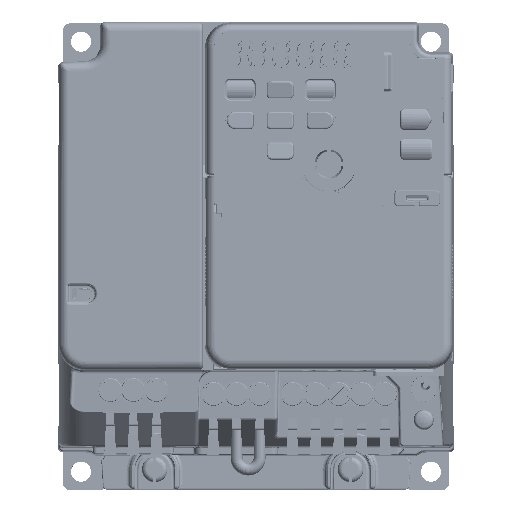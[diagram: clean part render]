
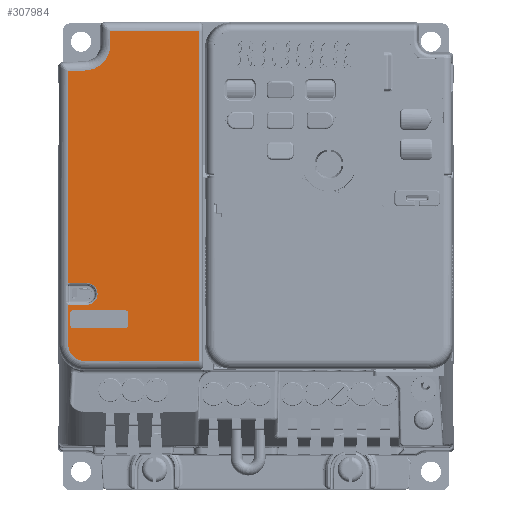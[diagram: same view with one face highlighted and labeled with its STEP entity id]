
A CAD part, top view. The second image highlights one B-rep face of the part: STEP entity #307984.
In plain terms, the highlighted planar face has unit normal (0, 0, 1).
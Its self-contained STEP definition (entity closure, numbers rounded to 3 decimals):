
#221983=DIRECTION('',(0.,-1.,0.));
#221984=VECTOR('',#221983,3.73);
#221985=CARTESIAN_POINT('',(-40.,125.5,
115.8));
#221986=LINE('',#221985,#221984);
#221991=CARTESIAN_POINT('',(-40.,125.5,
115.8));
#222026=CARTESIAN_POINT('',(-15.622,125.5,115.8));
#222028=DIRECTION('',(-1.,0.,0.));
#222029=VECTOR('',#222028,24.378);
#222030=CARTESIAN_POINT('',(-15.622,125.5,115.8));
#222031=LINE('',#222030,#222029);
#240392=CARTESIAN_POINT('',(-15.622,35.1,
115.8));
#240405=DIRECTION('',(1.,0.,0.));
#240406=VECTOR('',#240405,31.378);
#240407=CARTESIAN_POINT('',(-47.,35.1,115.8));
#240408=LINE('',#240407,#240406);
#240424=CARTESIAN_POINT('',(-51.044,56.544,
115.8));
#240425=CARTESIAN_POINT('',(-51.097,56.544,
115.8));
#240426=CARTESIAN_POINT('',(-51.201,56.535,
115.8));
#240427=CARTESIAN_POINT('',(-51.356,56.498,
115.8));
#240428=CARTESIAN_POINT('',(-51.453,56.458,
115.8));
#240429=CARTESIAN_POINT('',(-51.5,56.434,115.8));
#240431=DIRECTION('',(0.999,0.052,0.));
#240432=VECTOR('',#240431,4.873);
#240433=CARTESIAN_POINT('',(-51.5,114.525,115.8));
#240434=LINE('',#240433,#240432);
#240435=CARTESIAN_POINT('',(-47.,121.77,115.8));
#240436=DIRECTION('',(0.,0.,1.));
#240437=DIRECTION('',(0.052,-0.999,0.));
#240438=AXIS2_PLACEMENT_3D('',#240435,#240436,#240437);
#240440=CARTESIAN_POINT('',(-47.,39.6,115.8));
#240441=DIRECTION('',(0.,0.,-1.));
#240442=DIRECTION('',(0.,-1.,0.));
#240443=AXIS2_PLACEMENT_3D('',#240440,#240441,#240442);
#240445=CARTESIAN_POINT('',(-51.5,50.566,115.8));
#240446=CARTESIAN_POINT('',(-51.453,50.542,
115.8));
#240447=CARTESIAN_POINT('',(-51.356,50.502,
115.8));
#240448=CARTESIAN_POINT('',(-51.201,50.465,
115.8));
#240449=CARTESIAN_POINT('',(-51.097,50.456,
115.8));
#240450=CARTESIAN_POINT('',(-51.044,50.456,
115.8));
#240452=CARTESIAN_POINT('',(-46.5,53.5,115.8));
#240453=DIRECTION('',(0.,0.,1.));
#240454=DIRECTION('',(0.,-1.,0.));
#240455=AXIS2_PLACEMENT_3D('',#240452,#240453,#240454);
#240457=CARTESIAN_POINT('',(-50.,45.,115.8));
#240458=DIRECTION('',(0.,0.,1.));
#240459=DIRECTION('',(-1.,0.,0.));
#240460=AXIS2_PLACEMENT_3D('',#240457,#240458,#240459);
#240462=CARTESIAN_POINT('',(-36.,45.,115.8));
#240463=DIRECTION('',(0.,0.,1.));
#240464=DIRECTION('',(0.,-1.,0.));
#240465=AXIS2_PLACEMENT_3D('',#240462,#240463,#240464);
#240467=CARTESIAN_POINT('',(-36.,48.,115.8));
#240468=DIRECTION('',(0.,0.,1.));
#240469=DIRECTION('',(1.,0.,0.));
#240470=AXIS2_PLACEMENT_3D('',#240467,#240468,#240469);
#240472=CARTESIAN_POINT('',(-50.,48.,115.8));
#240473=DIRECTION('',(0.,0.,1.));
#240474=DIRECTION('',(0.,1.,0.));
#240475=AXIS2_PLACEMENT_3D('',#240472,#240473,#240474);
#240477=DIRECTION('',(1.,0.,0.));
#240478=VECTOR('',#240477,4.544);
#240479=CARTESIAN_POINT('',(-51.044,56.544,
115.8));
#240480=LINE('',#240479,#240478);
#240522=DIRECTION('',(-1.,0.,0.));
#240523=VECTOR('',#240522,4.544);
#240524=CARTESIAN_POINT('',(-46.5,50.456,115.8));
#240525=LINE('',#240524,#240523);
#240556=DIRECTION('',(0.,-1.,0.));
#240557=VECTOR('',#240556,10.966);
#240558=CARTESIAN_POINT('',(-51.5,50.566,115.8));
#240559=LINE('',#240558,#240557);
#240574=DIRECTION('',(0.,-1.,0.));
#240575=VECTOR('',#240574,58.091);
#240576=CARTESIAN_POINT('',(-51.5,114.525,115.8));
#240577=LINE('',#240576,#240575);
#240855=DIRECTION('',(0.,1.,0.));
#240856=VECTOR('',#240855,90.4);
#240857=CARTESIAN_POINT('',(-15.622,35.1,
115.8));
#240858=LINE('',#240857,#240856);
#240863=DIRECTION('',(0.,1.,0.));
#240864=VECTOR('',#240863,3.);
#240865=CARTESIAN_POINT('',(-51.,45.,115.8));
#240866=LINE('',#240865,#240864);
#241219=DIRECTION('',(1.,0.,0.));
#241220=VECTOR('',#241219,14.);
#241221=CARTESIAN_POINT('',(-50.,49.,115.8));
#241222=LINE('',#241221,#241220);
#241231=DIRECTION('',(0.,-1.,0.));
#241232=VECTOR('',#241231,3.);
#241233=CARTESIAN_POINT('',(-35.,48.,115.8));
#241234=LINE('',#241233,#241232);
#241243=DIRECTION('',(-1.,0.,0.));
#241244=VECTOR('',#241243,14.);
#241245=CARTESIAN_POINT('',(-36.,44.,115.8));
#241246=LINE('',#241245,#241244);
#269780=VERTEX_POINT('',#221991);
#269781=CARTESIAN_POINT('',(-40.,121.77,115.8));
#269782=VERTEX_POINT('',#269781);
#269783=VERTEX_POINT('',#222026);
#274788=VERTEX_POINT('',#240392);
#274789=CARTESIAN_POINT('',(-47.,35.1,115.8));
#274790=VERTEX_POINT('',#274789);
#274791=CARTESIAN_POINT('',(-51.5,39.6,115.8));
#274792=VERTEX_POINT('',#274791);
#274793=CARTESIAN_POINT('',(-51.044,56.544,
115.8));
#274794=CARTESIAN_POINT('',(-46.5,56.544,115.8));
#274795=VERTEX_POINT('',#274793);
#274796=VERTEX_POINT('',#274794);
#274797=VERTEX_POINT('',#240429);
#274798=CARTESIAN_POINT('',(-51.5,114.525,115.8));
#274799=VERTEX_POINT('',#274798);
#274800=CARTESIAN_POINT('',(-46.634,114.78,115.8));
#274801=VERTEX_POINT('',#274800);
#274802=CARTESIAN_POINT('',(-51.5,50.566,115.8));
#274803=VERTEX_POINT('',#274802);
#274804=VERTEX_POINT('',#240450);
#274805=CARTESIAN_POINT('',(-46.5,50.456,115.8));
#274806=VERTEX_POINT('',#274805);
#274807=CARTESIAN_POINT('',(-51.,45.,115.8));
#274808=CARTESIAN_POINT('',(-51.,48.,115.8));
#274809=VERTEX_POINT('',#274807);
#274810=VERTEX_POINT('',#274808);
#274811=CARTESIAN_POINT('',(-50.,44.,115.8));
#274812=VERTEX_POINT('',#274811);
#274813=CARTESIAN_POINT('',(-36.,44.,115.8));
#274814=VERTEX_POINT('',#274813);
#274815=CARTESIAN_POINT('',(-35.,45.,115.8));
#274816=VERTEX_POINT('',#274815);
#274817=CARTESIAN_POINT('',(-35.,48.,115.8));
#274818=VERTEX_POINT('',#274817);
#274819=CARTESIAN_POINT('',(-36.,49.,115.8));
#274820=VERTEX_POINT('',#274819);
#274821=CARTESIAN_POINT('',(-50.,49.,115.8));
#274822=VERTEX_POINT('',#274821);
#307935=CARTESIAN_POINT('',(0.,0.,115.8));
#307936=DIRECTION('',(0.,0.,1.));
#307937=DIRECTION('',(1.,0.,0.));
#307938=AXIS2_PLACEMENT_3D('',#307935,#307936,#307937);
#307939=PLANE('',#307938);
#307941=ORIENTED_EDGE('',*,*,#307940,.F.);
#307943=ORIENTED_EDGE('',*,*,#307942,.T.);
#307945=ORIENTED_EDGE('',*,*,#307944,.F.);
#307947=ORIENTED_EDGE('',*,*,#307946,.T.);
#307949=ORIENTED_EDGE('',*,*,#307948,.T.);
#307950=ORIENTED_EDGE('',*,*,#286228,.F.);
#307951=ORIENTED_EDGE('',*,*,#286305,.F.);
#307953=ORIENTED_EDGE('',*,*,#307952,.F.);
#307954=ORIENTED_EDGE('',*,*,#307915,.F.);
#307955=ORIENTED_EDGE('',*,*,#307925,.T.);
#307957=ORIENTED_EDGE('',*,*,#307956,.F.);
#307959=ORIENTED_EDGE('',*,*,#307958,.T.);
#307961=ORIENTED_EDGE('',*,*,#307960,.F.);
#307963=ORIENTED_EDGE('',*,*,#307962,.T.);
#307964=EDGE_LOOP('',(#307941,#307943,#307945,#307947,#307949,#307950,#307951,
#307953,#307954,#307955,#307957,#307959,#307961,#307963));
#307965=FACE_OUTER_BOUND('',#307964,.F.);
#307967=ORIENTED_EDGE('',*,*,#307966,.F.);
#307969=ORIENTED_EDGE('',*,*,#307968,.T.);
#307971=ORIENTED_EDGE('',*,*,#307970,.F.);
#307973=ORIENTED_EDGE('',*,*,#307972,.T.);
#307975=ORIENTED_EDGE('',*,*,#307974,.F.);
#307977=ORIENTED_EDGE('',*,*,#307976,.T.);
#307979=ORIENTED_EDGE('',*,*,#307978,.F.);
#307981=ORIENTED_EDGE('',*,*,#307980,.T.);
#307982=EDGE_LOOP('',(#307967,#307969,#307971,#307973,#307975,#307977,#307979,
#307981));
#307983=FACE_BOUND('',#307982,.F.);
#307984=ADVANCED_FACE('',(#307965,#307983),#307939,.T.);
#240430=B_SPLINE_CURVE_WITH_KNOTS('',3,(#240424,#240425,#240426,#240427,#240428,
#240429),.UNSPECIFIED.,.F.,.F.,(4,1,1,4),(0.,0.333,
0.667,1.),.UNSPECIFIED.);
#240439=CIRCLE('',#240438,7.);
#240444=CIRCLE('',#240443,4.5);
#240451=B_SPLINE_CURVE_WITH_KNOTS('',3,(#240445,#240446,#240447,#240448,#240449,
#240450),.UNSPECIFIED.,.F.,.F.,(4,1,1,4),(0.,0.333,
0.667,1.),.UNSPECIFIED.);
#240456=CIRCLE('',#240455,3.044);
#240461=CIRCLE('',#240460,1.);
#240466=CIRCLE('',#240465,1.);
#240471=CIRCLE('',#240470,1.);
#240476=CIRCLE('',#240475,1.);
#286228=EDGE_CURVE('',#269780,#269782,#221986,.T.);
#286305=EDGE_CURVE('',#269783,#269780,#222031,.T.);
#307915=EDGE_CURVE('',#274790,#274788,#240408,.T.);
#307925=EDGE_CURVE('',#274790,#274792,#240444,.T.);
#307940=EDGE_CURVE('',#274795,#274796,#240480,.T.);
#307942=EDGE_CURVE('',#274795,#274797,#240430,.T.);
#307944=EDGE_CURVE('',#274799,#274797,#240577,.T.);
#307946=EDGE_CURVE('',#274799,#274801,#240434,.T.);
#307948=EDGE_CURVE('',#274801,#269782,#240439,.T.);
#307952=EDGE_CURVE('',#274788,#269783,#240858,.T.);
#307956=EDGE_CURVE('',#274803,#274792,#240559,.T.);
#307958=EDGE_CURVE('',#274803,#274804,#240451,.T.);
#307960=EDGE_CURVE('',#274806,#274804,#240525,.T.);
#307962=EDGE_CURVE('',#274806,#274796,#240456,.T.);
#307966=EDGE_CURVE('',#274809,#274810,#240866,.T.);
#307968=EDGE_CURVE('',#274809,#274812,#240461,.T.);
#307970=EDGE_CURVE('',#274814,#274812,#241246,.T.);
#307972=EDGE_CURVE('',#274814,#274816,#240466,.T.);
#307974=EDGE_CURVE('',#274818,#274816,#241234,.T.);
#307976=EDGE_CURVE('',#274818,#274820,#240471,.T.);
#307978=EDGE_CURVE('',#274822,#274820,#241222,.T.);
#307980=EDGE_CURVE('',#274822,#274810,#240476,.T.);
